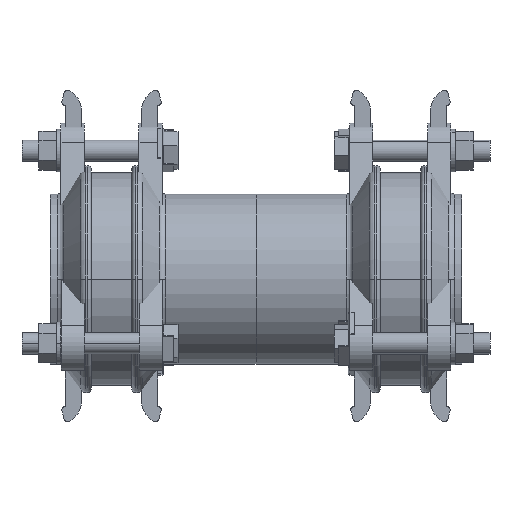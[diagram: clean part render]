
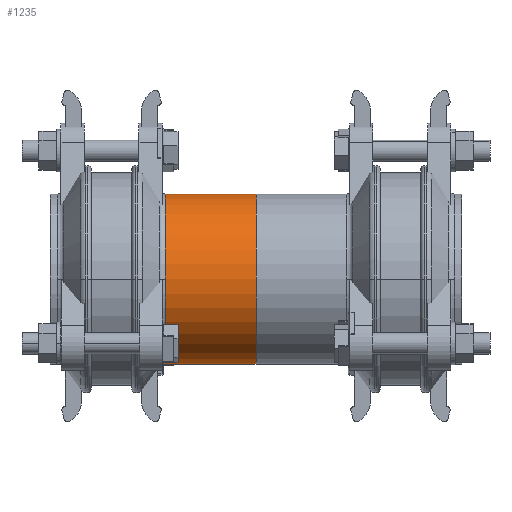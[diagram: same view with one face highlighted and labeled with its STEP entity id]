
A CAD part, front view. The second image highlights one B-rep face of the part: STEP entity #1235.
In plain terms, the highlighted cylindrical face has radius 48 mm (diameter 96 mm), a partial arc.
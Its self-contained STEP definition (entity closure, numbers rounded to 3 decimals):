
#1235=ADVANCED_FACE('',(#2648),#2649,.T.);
#2648=FACE_OUTER_BOUND('',#4709,.T.);
#2649=CYLINDRICAL_SURFACE('',#4710,48.0);
#4709=EDGE_LOOP('',(#6463,#6464,#6465,#6466,#6467));
#4710=AXIS2_PLACEMENT_3D('',#6468,#6469,#6470);
#6463=ORIENTED_EDGE('',*,*,#10937,.F.);
#6464=ORIENTED_EDGE('',*,*,#10938,.T.);
#6465=ORIENTED_EDGE('',*,*,#10939,.T.);
#6466=ORIENTED_EDGE('',*,*,#10940,.F.);
#6467=ORIENTED_EDGE('',*,*,#10941,.F.);
#6468=CARTESIAN_POINT('',(-6.527,0.,0.));
#6469=DIRECTION('',(1.0,0.,0.));
#6470=DIRECTION('',(0.,0.,1.0));
#10937=EDGE_CURVE('',#12778,#12779,#12780,.T.);
#10938=EDGE_CURVE('',#12778,#12781,#12782,.T.);
#10939=EDGE_CURVE('',#12781,#12783,#12784,.T.);
#10940=EDGE_CURVE('',#12785,#12783,#12786,.T.);
#10941=EDGE_CURVE('',#12779,#12785,#12787,.T.);
#12778=VERTEX_POINT('',#15375);
#12779=VERTEX_POINT('',#15376);
#12780=LINE('',#15377,#15378);
#12781=VERTEX_POINT('',#15379);
#12782=CIRCLE('',#15380,48.0);
#12783=VERTEX_POINT('',#15381);
#12784=CIRCLE('',#15382,48.0);
#12785=VERTEX_POINT('',#15383);
#12786=LINE('',#15384,#15385);
#12787=CIRCLE('',#15386,48.0);
#15375=CARTESIAN_POINT('',(-32.053,0.,48.0));
#15376=CARTESIAN_POINT('',(19.0,0.,48.0));
#15377=CARTESIAN_POINT('',(-6.527,0.,48.0));
#15378=VECTOR('',#18665,1.0);
#15379=CARTESIAN_POINT('',(-32.053,-48.,0.));
#15380=AXIS2_PLACEMENT_3D('',#18666,#18667,#18668);
#15381=CARTESIAN_POINT('',(-32.053,0.,-48.0));
#15382=AXIS2_PLACEMENT_3D('',#18669,#18670,#18671);
#15383=CARTESIAN_POINT('',(19.0,0.,-48.0));
#15384=CARTESIAN_POINT('',(-6.527,0.,-48.0));
#15385=VECTOR('',#18672,1.0);
#15386=AXIS2_PLACEMENT_3D('',#18673,#18674,#18675);
#18665=DIRECTION('',(1.0,0.,0.));
#18666=CARTESIAN_POINT('',(-32.053,0.,0.0));
#18667=DIRECTION('',(1.0,0.,0.));
#18668=DIRECTION('',(0.,0.,1.0));
#18669=CARTESIAN_POINT('',(-32.053,0.,0.0));
#18670=DIRECTION('',(1.0,0.,0.));
#18671=DIRECTION('',(0.,0.,1.0));
#18672=DIRECTION('',(-1.0,0.,0.));
#18673=CARTESIAN_POINT('',(19.0,0.,0.));
#18674=DIRECTION('',(1.0,0.,0.));
#18675=DIRECTION('',(0.,0.,1.0));
